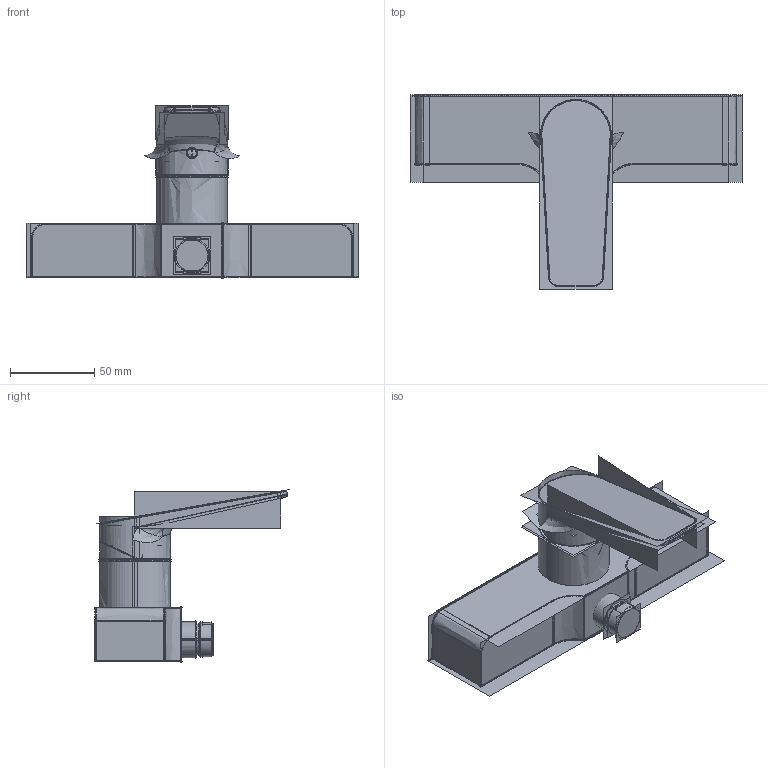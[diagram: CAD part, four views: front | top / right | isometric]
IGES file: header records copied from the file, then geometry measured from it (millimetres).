
Start section:  PTC IGES file: GPF4373100000A002_1.igs
Global section: file name: GPF4373100000A002_1.igs; native system: Creo Parametric by PTC Inc.; preprocessor: 2018070; author: plmexport; organization: Unknown; date: 20201120.195221; units: millimetre
Bounding box: 196.56 x 115.51 x 102.32 mm (x, y, z)
Surface area: 129761.3 mm2 (no closed solid volume)
Topology: 0 solids, 0 shells, 416 faces, 3242 edges, 4706 vertices
Faces by surface type: bspline 416
